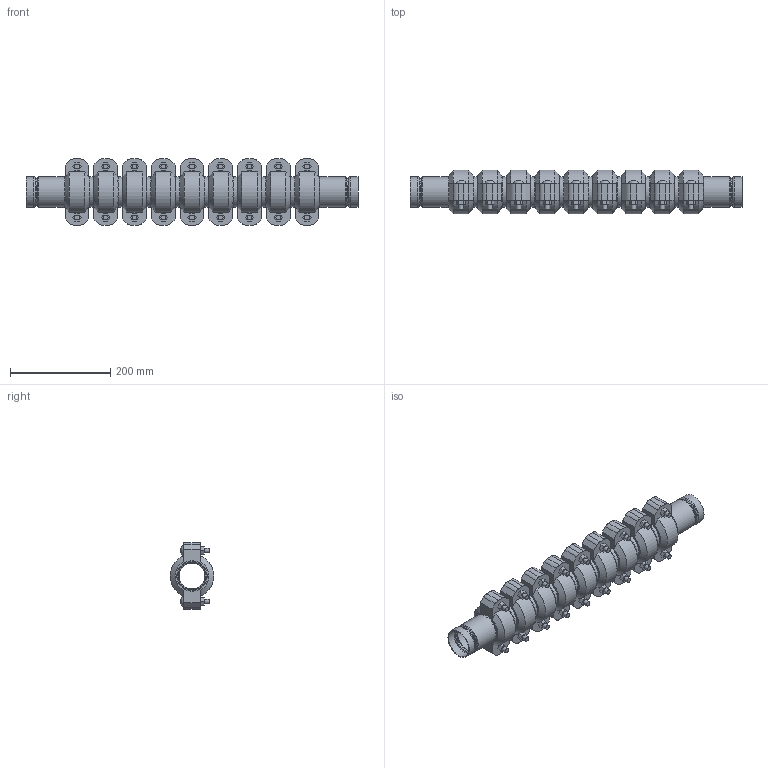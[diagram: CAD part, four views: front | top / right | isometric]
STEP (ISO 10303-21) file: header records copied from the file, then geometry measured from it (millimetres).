
FILE_DESCRIPTION(/* description */ ('VIC STRENGTHIN 100 EXPANSION JOINT 9 COUPLINGS COMPRESSED STYLE E155 (ST1)','CAx-IF Rec.Pracs.---Representation and Presentation of Product Manufacturing Information (PMI)---4.0---2014-10-13'),/* implementation_level */ '2;1');
FILE_NAME(/* name */ 'C:\Users\Vjadhav\AppData\Roaming\Autodesk\ApplicationPlugins\Victaulic.Temp\A705\Victaulic_SS-StrengThin 100_Expansion Joint_Compressed_9 Couplings_Style E155 (ST1)_2 (50).stp',/* time_stamp */ '2021-07-23T12:37:15+05:00',/* author */ ('kkamble'),/* organization */ ('Victaulic'),/* preprocessor_version */ 'ST-DEVELOPER v17.2',/* originating_system */ 'Autodesk Inventor 2019',/* authorisation */ '');
FILE_SCHEMA (('AP242_MANAGED_MODEL_BASED_3D_ENGINEERING_MIM_LF { 1 0 10303 442 1 1 4 }'));
Length unit declared in the file: inch
Products named in the file (4): E155-02.0; E494G-02.0; Nipple-02.0; 075-02.0
Assembly tree (19 placements, depth 2):
  E155-02.0
    E494G-02.0  x2
    Nipple-02.0  x8
    075-02.0  x9
Bounding box: 661.92 x 87.12 x 132.59 mm (x, y, z)
Volume: 2138564.8 mm3; surface area: 608206.4 mm2
Topology: 19 solids, 37 shells, 641 faces, 1605 edges, 1132 vertices
Faces by surface type: plane 366, cylinder 185, cone 40, torus 32, bspline 18
Full cylindrical faces by diameter (mm): 9.525 x36, 11.43 x18, 51.13 x2, 52.502 x8, 53.95 x2, 54.331 x2, 57.125 x6, 57.15 x18, 60.325 x39
Entity records: 3711 total; most frequent: DIRECTION 663, CARTESIAN_POINT 651, ORIENTED_EDGE 536, AXIS2_PLACEMENT_3D 283, EDGE_CURVE 268, VERTEX_POINT 193, CIRCLE 163, EDGE_LOOP 123
